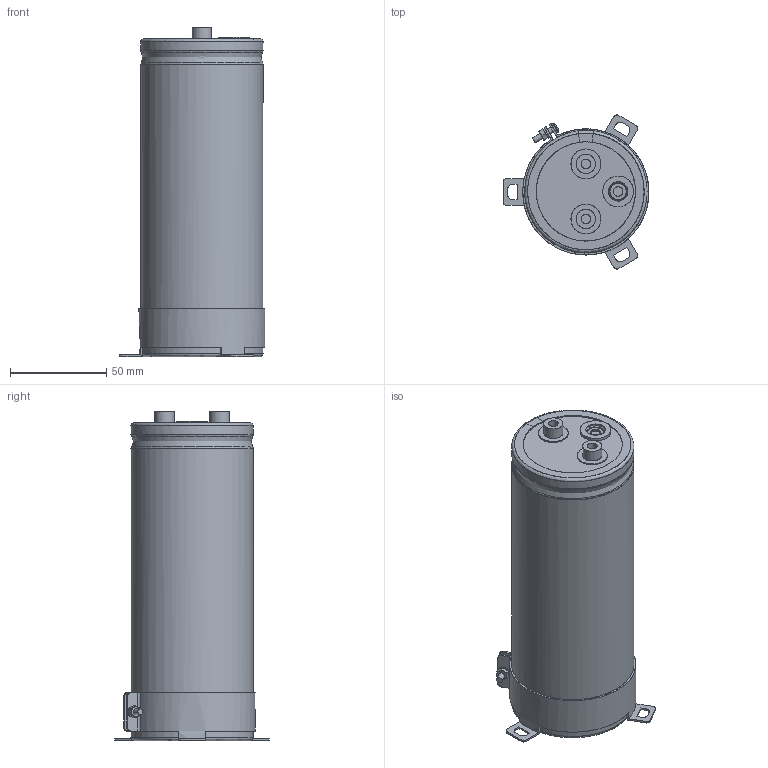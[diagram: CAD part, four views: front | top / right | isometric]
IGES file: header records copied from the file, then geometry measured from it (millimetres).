
Start section: JAMA-IS VERSION  1.0
Bounding box: 75.75 x 80.01 x 171 mm (x, y, z)
Surface area: 119628 mm2 (no closed solid volume)
Topology: 0 solids, 0 shells, 259 faces, 4436 edges, 4409 vertices
Faces by surface type: bspline 259
